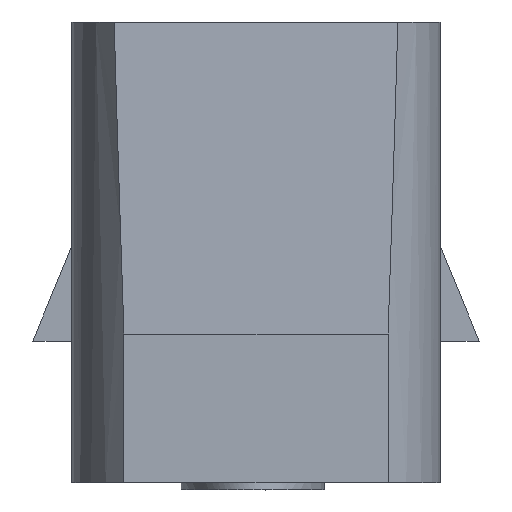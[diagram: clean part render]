
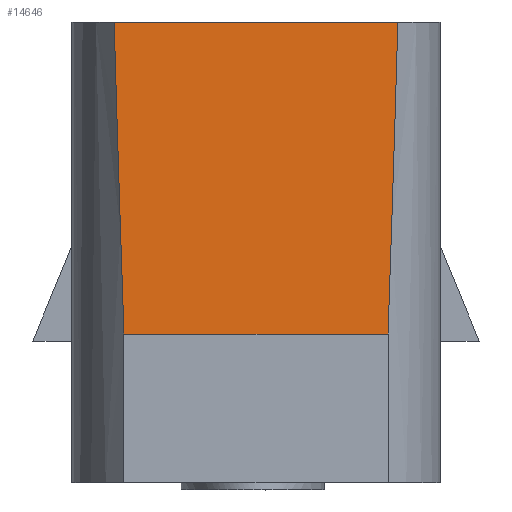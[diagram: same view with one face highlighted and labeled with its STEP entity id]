
A CAD part, left-side view. The second image highlights one B-rep face of the part: STEP entity #14646.
In plain terms, the highlighted planar face has unit normal (-0.999, 0, 0.035).
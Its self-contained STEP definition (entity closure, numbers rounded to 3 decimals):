
#3851= CARTESIAN_POINT(' ',(-10.314,28.138,-7.9));
#3852= VERTEX_POINT(' ',#3851);
#3901= CARTESIAN_POINT(' ',(-10.161,27.999,-3.5));
#3902= VERTEX_POINT(' ',#3901);
#3916= CARTESIAN_POINT(' ',(-9.272,908.997,21.939));
#3921= DIRECTION(' ',(0.999,0.,-0.035));
#3926= DIRECTION(' ',(-0.001,-1.,-0.029));
#3931= AXIS2_PLACEMENT_3D(' ',#3916,#3921,#3926);
#3936= CIRCLE(' ',#3931,881.365);
#3941= EDGE_CURVE(' ',#3902,#3852,#3936,.T.);
#4041= CARTESIAN_POINT(' ',(-10.314,31.862,-7.9));
#4046= DIRECTION(' ',(0.,-1.,0.));
#4051= VECTOR(' ',#4046,1.);
#4056= LINE(' ',#4041,#4051);
#4061= CARTESIAN_POINT(' ',(-10.314,31.862,-7.9));
#4062= VERTEX_POINT(' ',#4061);
#4066= EDGE_CURVE(' ',#4062,#3852,#4056,.T.);
#4191= CARTESIAN_POINT(' ',(-9.28,-842.035,21.721));
#4196= DIRECTION(' ',(0.999,0.,-0.035));
#4201= DIRECTION(' ',(-0.001,0.999,-0.034));
#4206= AXIS2_PLACEMENT_3D(' ',#4191,#4196,#4201);
#4211= CIRCLE(' ',#4206,874.399);
#4216= CARTESIAN_POINT(' ',(-10.161,32.001,-3.5));
#4217= VERTEX_POINT(' ',#4216);
#4221= EDGE_CURVE(' ',#4062,#4217,#4211,.T.);
#13171= CARTESIAN_POINT(' ',(-10.161,32.001,-3.5));
#13176= DIRECTION(' ',(0.,-1.,0.));
#13181= VECTOR(' ',#13176,1.);
#13186= LINE(' ',#13171,#13181);
#13191= EDGE_CURVE(' ',#4217,#3902,#13186,.T.);
#14591= CARTESIAN_POINT(' ',(-10.161,27.999,-3.5));
#14596= DIRECTION(' ',(-0.999,0.,0.035));
#14601= DIRECTION(' ',(0.,1.,0.));
#14606= AXIS2_PLACEMENT_3D(' ',#14591,#14596,#14601);
#14611= PLANE(' ',#14606);
#14616= ORIENTED_EDGE(' ',*,*,#13191,.F.);
#14621= ORIENTED_EDGE(' ',*,*,#4221,.F.);
#14626= ORIENTED_EDGE(' ',*,*,#4066,.T.);
#14631= ORIENTED_EDGE(' ',*,*,#3941,.F.);
#14636= EDGE_LOOP(' ',(#14616,#14621,#14626,#14631));
#14641= FACE_OUTER_BOUND(' ',#14636,.T.);
#14646= ADVANCED_FACE(' ',(#14641),#14611,.T.);
